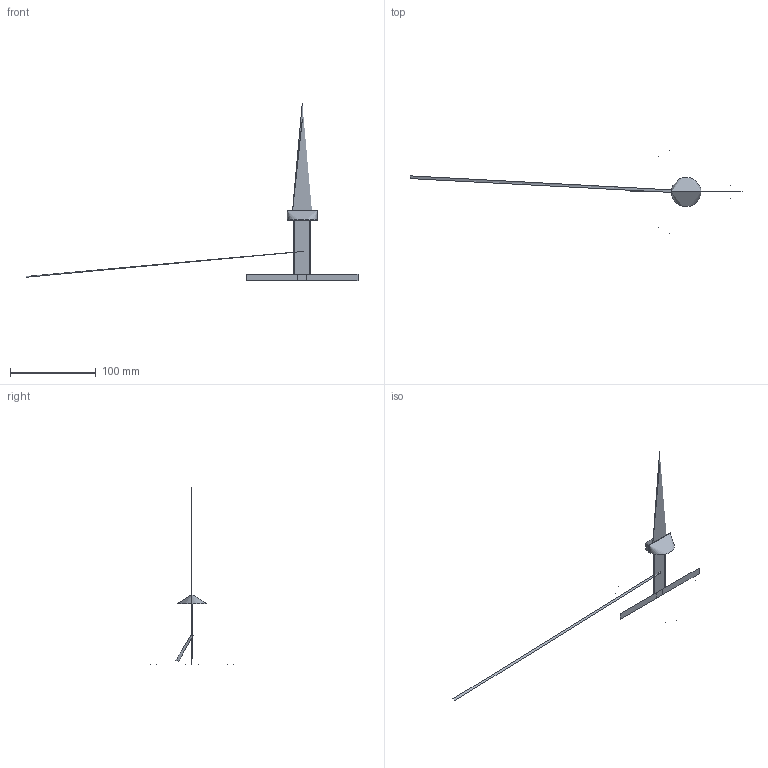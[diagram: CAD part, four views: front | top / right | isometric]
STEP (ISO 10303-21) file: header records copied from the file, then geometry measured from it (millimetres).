
FILE_DESCRIPTION(/* description */ (''),/* implementation_level */ '2;1');
FILE_NAME(/* name */ '5M155O~0',/* time_stamp */ '2021-11-02T10:26:10+01:00',/* author */ (''),/* organization */ (''),/* preprocessor_version */ 'ST-DEVELOPER v15',/* originating_system */ '',/* authorisation */ '');
FILE_SCHEMA (('AUTOMOTIVE_DESIGN'));
Length unit declared in the file: millimetre
Products named in the file (1): Document
Bounding box: 387 x 97.07 x 207.4 mm (x, y, z)
Volume: 170540.2 mm3; surface area: 276322 mm2
Topology: 5 solids, 9 shells, 45 faces, 123 edges, 76 vertices
Faces by surface type: bspline 45
Entity records: 8812 total; most frequent: CARTESIAN_POINT 7483, ORIENTED_EDGE 208, PCURVE 208, DEFINITIONAL_REPRESENTATION 208, B_SPLINE_CURVE_WITH_KNOTS 196, SURFACE_CURVE 108, EDGE_CURVE 108, VERTEX_POINT 74
